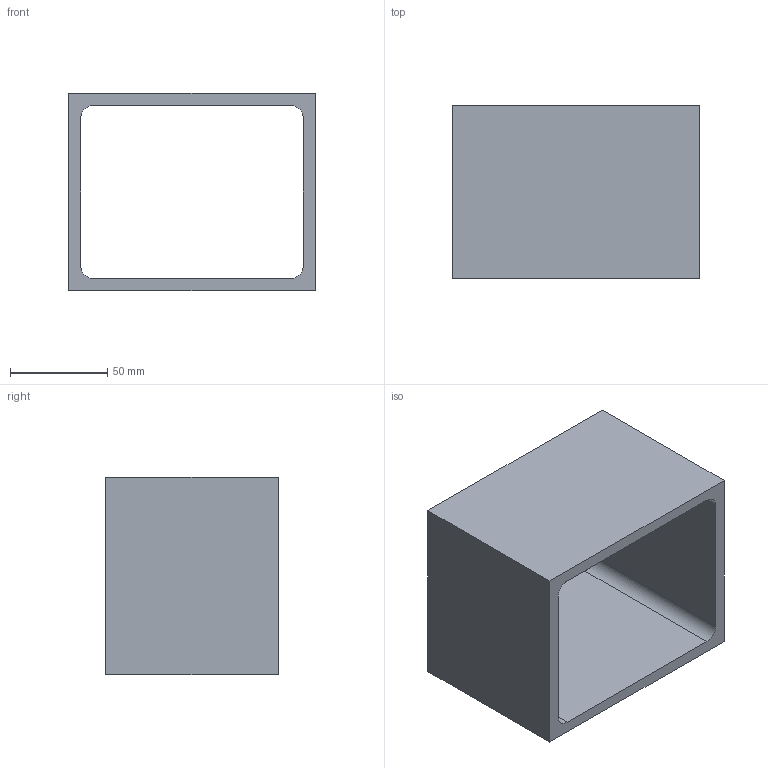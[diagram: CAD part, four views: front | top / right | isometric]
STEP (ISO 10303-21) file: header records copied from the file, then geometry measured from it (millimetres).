
FILE_DESCRIPTION (( 'STEP AP203' ), '1' );
FILE_NAME ('Laser Walls.STEP', '2023-09-27T21:18:30', ( '' ), ( '' ), 'SwSTEP 2.0', 'SolidWorks 2023', '' );
FILE_SCHEMA (( 'CONFIG_CONTROL_DESIGN' ));
Length unit declared in the file: inch
Products named in the file (1): Laser Walls
Bounding box: 127 x 88.9 x 101.6 mm (x, y, z)
Volume: 242240.6 mm3; surface area: 81344.9 mm2
Topology: 1 solids, 1 shells, 14 faces, 36 edges, 24 vertices
Faces by surface type: plane 10, cylinder 4
Entity records: 511 total; most frequent: CARTESIAN_POINT 75, DIRECTION 74, ORIENTED_EDGE 72, EDGE_CURVE 36, LINE 28, VECTOR 28, VERTEX_POINT 24, AXIS2_PLACEMENT_3D 23
